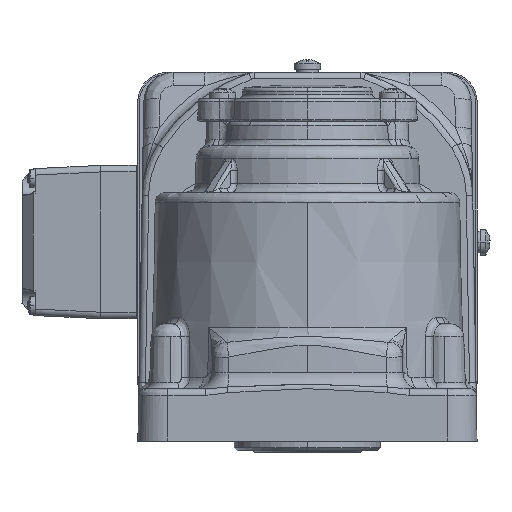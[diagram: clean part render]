
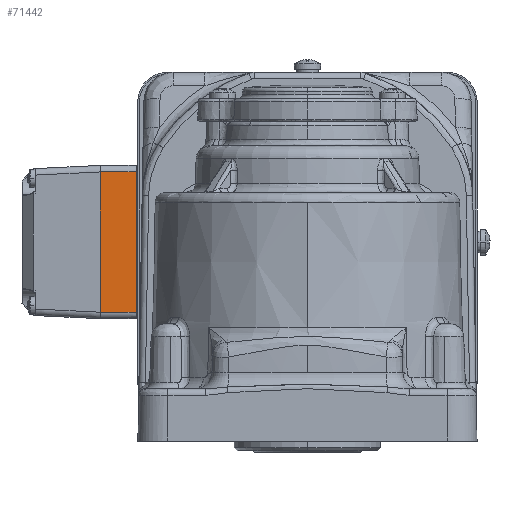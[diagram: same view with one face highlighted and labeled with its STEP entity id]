
A CAD part, left-side view. The second image highlights one B-rep face of the part: STEP entity #71442.
In plain terms, the highlighted planar face has unit normal (-1, 0, 0).
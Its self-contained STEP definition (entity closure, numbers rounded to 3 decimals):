
#5323 = CARTESIAN_POINT ( 'NONE',  ( -95.73, 40.284, 165.271 ) ) ;
#9524 = LINE ( 'NONE', #82916, #39549 ) ;
#15648 = ORIENTED_EDGE ( 'NONE', *, *, #71808, .T. ) ;
#20216 = CARTESIAN_POINT ( 'NONE',  ( -95.73, -2.718, 165.271 ) ) ;
#21119 = CARTESIAN_POINT ( 'NONE',  ( -95.73, -4.717, 176.271 ) ) ;
#24384 = DIRECTION ( 'NONE',  ( 0., 0., 1. ) ) ;
#29327 = AXIS2_PLACEMENT_3D ( 'NONE', #31839, #41900, #24384 ) ;
#31839 = CARTESIAN_POINT ( 'NONE',  ( -95.73, -4.717, 176.271 ) ) ;
#36075 = ORIENTED_EDGE ( 'NONE', *, *, #72884, .F. ) ;
#39549 = VECTOR ( 'NONE', #43526, 1000. ) ;
#41900 = DIRECTION ( 'NONE',  ( -1., 0., 0. ) ) ;
#43526 = DIRECTION ( 'NONE',  ( 0., 0., -1. ) ) ;
#43629 = DIRECTION ( 'NONE',  ( 0., 0., 1. ) ) ;
#43989 = VERTEX_POINT ( 'NONE', #56981 ) ;
#47330 = CARTESIAN_POINT ( 'NONE',  ( -95.73, 40.283, 176.271 ) ) ;
#54615 = DIRECTION ( 'NONE',  ( 0., 1., 0. ) ) ;
#56842 = FACE_OUTER_BOUND ( 'NONE', #67643, .T. ) ;
#56981 = CARTESIAN_POINT ( 'NONE',  ( -95.73, -2.717, 176.271 ) ) ;
#58205 = VECTOR ( 'NONE', #43629, 1000. ) ;
#60651 = LINE ( 'NONE', #20216, #58205 ) ;
#63540 = LINE ( 'NONE', #69943, #97419 ) ;
#65353 = PLANE ( 'NONE',  #29327 ) ;
#67643 = EDGE_LOOP ( 'NONE', ( #15648, #86082, #36075, #95782 ) ) ;
#68912 = EDGE_CURVE ( 'NONE', #85363, #43989, #60651, .T. ) ;
#69943 = CARTESIAN_POINT ( 'NONE',  ( -95.73, -4.717, 165.271 ) ) ;
#70052 = LINE ( 'NONE', #21119, #73628 ) ;
#71442 = ADVANCED_FACE ( 'NONE', ( #56842 ), #65353, .T. ) ;
#71808 = EDGE_CURVE ( 'NONE', #43989, #102403, #70052, .T. ) ;
#72884 = EDGE_CURVE ( 'NONE', #85363, #98913, #63540, .T. ) ;
#73628 = VECTOR ( 'NONE', #54615, 1000. ) ;
#78971 = DIRECTION ( 'NONE',  ( 0., 1., 0. ) ) ;
#82916 = CARTESIAN_POINT ( 'NONE',  ( -95.73, 40.283, 176.271 ) ) ;
#85363 = VERTEX_POINT ( 'NONE', #89093 ) ;
#86082 = ORIENTED_EDGE ( 'NONE', *, *, #92651, .T. ) ;
#89093 = CARTESIAN_POINT ( 'NONE',  ( -95.73, -2.718, 165.271 ) ) ;
#92651 = EDGE_CURVE ( 'NONE', #102403, #98913, #9524, .T. ) ;
#95782 = ORIENTED_EDGE ( 'NONE', *, *, #68912, .T. ) ;
#97419 = VECTOR ( 'NONE', #78971, 1000. ) ;
#98913 = VERTEX_POINT ( 'NONE', #5323 ) ;
#102403 = VERTEX_POINT ( 'NONE', #47330 ) ;
